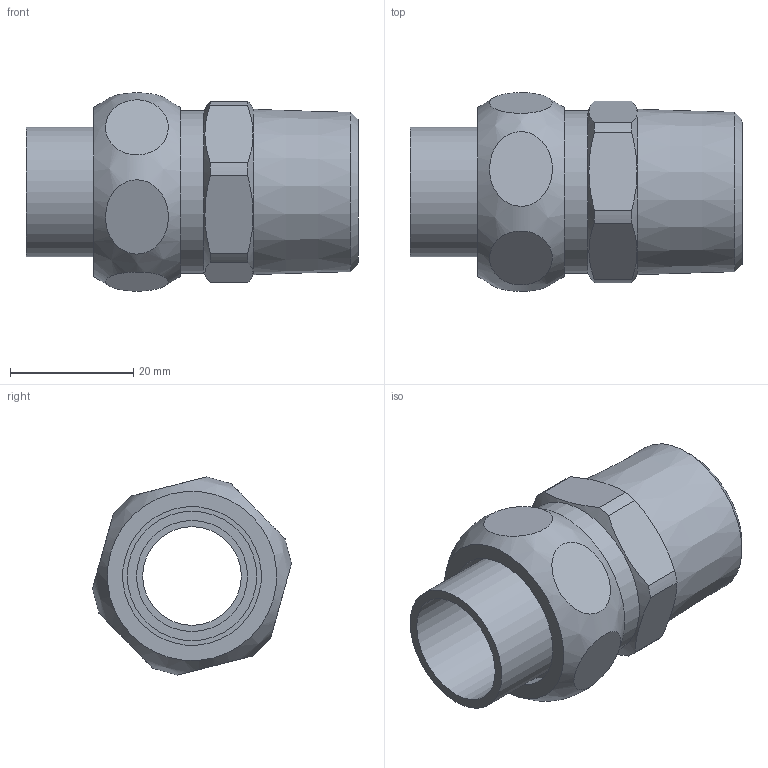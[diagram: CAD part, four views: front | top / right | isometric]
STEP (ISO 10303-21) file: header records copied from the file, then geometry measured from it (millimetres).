
FILE_DESCRIPTION(/* description */ (''),/* implementation_level */ '2;1');
FILE_NAME(/* name */ '\\LG50001\SANHA_Legnica\Engineering\Public\RYSUNKI\SANHA POLSKA\4343\Inventor\stp\143431834.stp',/* time_stamp */ '2016-02-04T11:13:53+01:00',/* author */ ('gomulka'),/* organization */ (''),/* preprocessor_version */ 'ST-DEVELOPER v15.6',/* originating_system */ 'Autodesk Inventor 2015',/* authorisation */ '');
FILE_SCHEMA (('AUTOMOTIVE_DESIGN { 1 0 10303 214 3 1 1 }'));
Length unit declared in the file: millimetre
Products named in the file (4): 14381_18-34(1); 14374_34(2); 14386g_34-34(1); 143431834
Assembly tree (3 placements, depth 2):
  143431834
    14381_18-34(1)
    14374_34(2)
    14386g_34-34(1)
Bounding box: 53.86 x 32.26 x 32.16 mm (x, y, z)
Volume: 16482.6 mm3; surface area: 11366.5 mm2
Topology: 3 solids, 3 shells, 46 faces, 103 edges, 72 vertices
Faces by surface type: plane 22, cylinder 16, cone 6, torus 1, bspline 1
Full cylindrical faces by diameter (mm): 16 x1, 17 x1, 18 x1, 19.5 x1, 21 x2, 22.5 x1, 23.5 x1, 24.117 x1, 26.441 x1
Entity records: 1653 total; most frequent: CARTESIAN_POINT 632, DIRECTION 198, ORIENTED_EDGE 172, AXIS2_PLACEMENT_3D 93, EDGE_CURVE 86, EDGE_LOOP 78, VERTEX_POINT 72, FACE_OUTER_BOUND 46
